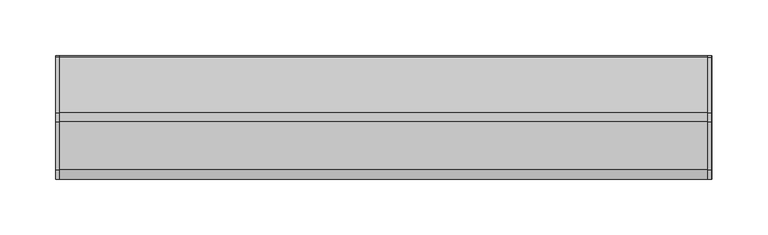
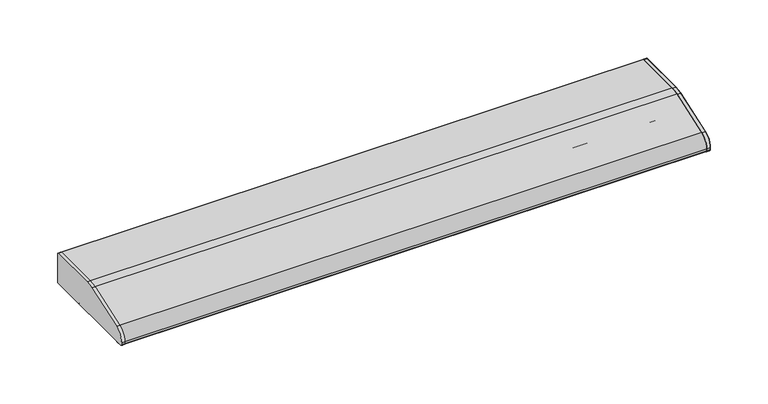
"""IFC4 building model written with IfcOpenShell, lengths in millimetres: light fixture geometry, HermanMiller_SupplementalProducts_G6136_UtilityTaskLight : AO Etho Canvas 30W."""

from ifc_helpers import new_model, si_unit, point, frame, frame_2d, origin, place, context, project, spatial, polyline, circle_curve, trimmed, segment, composite_curve, outline, extrude, source, transform, mapped, element, save


def light_fixture_68823ae9(model_context):
    return source(origin(), model_context, "Body", "SweptSolid", [
        extrude(outline(composite_curve([segment(polyline([(53.975, 1282.7), (-53.975, 1282.7)]), True, "CONTINUOUS"), segment(trimmed(circle_curve(frame_2d((-53.975, 1284.2875)), 1.5875), [point((-53.975, 1282.7))], [point((-55.5625, 1284.2875))], False, "CARTESIAN"), True, "CONTINUOUS"), segment(polyline([(-55.5625, 1284.2875), (-55.5625, 1286.3285714)]), True, "CONTINUOUS"), segment(trimmed(circle_curve(frame_2d((-42.8625, 1286.3285714)), 12.7), [point((-55.5625, 1286.3285714))], [point((-46.9814189, 1298.3420849))], False, "CARTESIAN"), True, "CONTINUOUS"), segment(polyline([(-46.9814189, 1298.3420849), (-4.0045045, 1313.077027)]), True, "CONTINUOUS"), segment(trimmed(circle_curve(frame_2d((4.2333333, 1289.05)), 25.4), [point((-4.0045045, 1313.077027))], [point((4.2333333, 1314.45))], False, "CARTESIAN"), True, "CONTINUOUS"), segment(polyline([(4.2333333, 1314.45), (53.975, 1314.45)]), True, "CONTINUOUS"), segment(trimmed(circle_curve(frame_2d((53.975, 1312.8625)), 1.5875), [point((53.975, 1314.45))], [point((55.5625, 1312.8625))], False, "CARTESIAN"), True, "CONTINUOUS"), segment(polyline([(55.5625, 1312.8625), (55.5625, 1284.2875)]), True, "CONTINUOUS"), segment(trimmed(circle_curve(frame_2d((53.975, 1284.2875)), 1.5875), [point((55.5625, 1284.2875))], [point((53.975, 1282.7))], False, "CARTESIAN"), True, "CONTINUOUS")], self_intersect=False)), frame((291.846, 0.0, 0.0), z_axis=(1.0, 0.0, 0.0), x_axis=(0.0, 1.0, 0.0)), (0.0, 0.0, 1.0), 3.175),
        extrude(outline(composite_curve([segment(trimmed(circle_curve(frame_2d((53.975, 1312.8625)), 1.5875), [point((53.975, 1314.45))], [point((55.5625, 1312.8625))], False, "CARTESIAN"), True, "CONTINUOUS"), segment(polyline([(55.5625, 1312.8625), (55.5625, 1284.2875)]), True, "CONTINUOUS"), segment(trimmed(circle_curve(frame_2d((53.975, 1284.2875)), 1.5875), [point((55.5625, 1284.2875))], [point((53.975, 1282.7))], False, "CARTESIAN"), True, "CONTINUOUS"), segment(polyline([(53.975, 1282.7), (-53.975, 1282.7)]), True, "CONTINUOUS"), segment(trimmed(circle_curve(frame_2d((-53.975, 1284.2875)), 1.5875), [point((-53.975, 1282.7))], [point((-55.5625, 1284.2875))], False, "CARTESIAN"), True, "CONTINUOUS"), segment(polyline([(-55.5625, 1284.2875), (-55.5625, 1286.3285714)]), True, "CONTINUOUS"), segment(trimmed(circle_curve(frame_2d((-42.8625, 1286.3285714)), 12.7), [point((-55.5625, 1286.3285714))], [point((-46.9814189, 1298.3420849))], False, "CARTESIAN"), True, "CONTINUOUS"), segment(polyline([(-46.9814189, 1298.3420849), (-4.0045045, 1313.077027)]), True, "CONTINUOUS"), segment(trimmed(circle_curve(frame_2d((4.2333333, 1289.05)), 25.4), [point((-4.0045045, 1313.077027))], [point((4.2333333, 1314.45))], False, "CARTESIAN"), True, "CONTINUOUS"), segment(polyline([(4.2333333, 1314.45), (53.975, 1314.45)]), True, "CONTINUOUS")], self_intersect=False)), frame((-295.021, 0.0, 0.0), z_axis=(1.0, 0.0, 0.0), x_axis=(0.0, 1.0, 0.0)), (0.0, 0.0, 1.0), 3.175),
        extrude(outline(composite_curve([segment(polyline([(55.5625, 1312.8625), (55.5625, 1284.2875)]), True, "CONTINUOUS"), segment(trimmed(circle_curve(frame_2d((53.975, 1284.2875)), 1.5875), [point((55.5625, 1284.2875))], [point((53.975, 1282.7))], False, "CARTESIAN"), True, "CONTINUOUS"), segment(polyline([(53.975, 1282.7), (19.05, 1282.7)]), True, "CONTINUOUS"), segment(trimmed(circle_curve(frame_2d((19.05, 1284.2875)), 1.5875), [point((19.05, 1282.7))], [point((17.4625, 1284.2875))], False, "CARTESIAN"), True, "CONTINUOUS"), segment(polyline([(17.4625, 1284.2875), (17.4625, 1312.8625), (4.4979167, 1312.8625)]), True, "CONTINUOUS"), segment(trimmed(circle_curve(frame_2d((4.4979167, 1287.4625)), 25.4), [point((4.4979167, 1312.8625))], [point((-3.7399212, 1311.489527))], True, "CARTESIAN"), True, "CONTINUOUS"), segment(polyline([(-3.7399212, 1311.489527), (-37.4564189, 1299.9295849)]), True, "CONTINUOUS"), segment(trimmed(circle_curve(frame_2d((-33.3375, 1287.9160714)), 12.7), [point((-37.4564189, 1299.9295849))], [point((-46.0375, 1287.9160714))], True, "CARTESIAN"), True, "CONTINUOUS"), segment(polyline([(-46.0375, 1287.9160714), (-46.0375, 1284.2875)]), True, "CONTINUOUS"), segment(trimmed(circle_curve(frame_2d((-47.625, 1284.2875)), 1.5875), [point((-46.0375, 1284.2875))], [point((-47.625, 1282.7))], False, "CARTESIAN"), True, "CONTINUOUS"), segment(polyline([(-47.625, 1282.7), (-53.975, 1282.7)]), True, "CONTINUOUS"), segment(trimmed(circle_curve(frame_2d((-53.975, 1284.2875)), 1.5875), [point((-53.975, 1282.7))], [point((-55.5625, 1284.2875))], False, "CARTESIAN"), True, "CONTINUOUS"), segment(polyline([(-55.5625, 1284.2875), (-55.5625, 1286.3285714)]), True, "CONTINUOUS"), segment(trimmed(circle_curve(frame_2d((-42.8625, 1286.3285714)), 12.7), [point((-55.5625, 1286.3285714))], [point((-46.9814189, 1298.3420849))], False, "CARTESIAN"), True, "CONTINUOUS"), segment(polyline([(-46.9814189, 1298.3420849), (-4.0045045, 1313.077027)]), True, "CONTINUOUS"), segment(trimmed(circle_curve(frame_2d((4.2333333, 1289.05)), 25.4), [point((-4.0045045, 1313.077027))], [point((4.2333333, 1314.45))], False, "CARTESIAN"), True, "CONTINUOUS"), segment(polyline([(4.2333333, 1314.45), (53.975, 1314.45)]), True, "CONTINUOUS"), segment(trimmed(circle_curve(frame_2d((53.975, 1312.8625)), 1.5875), [point((53.975, 1314.45))], [point((55.5625, 1312.8625))], False, "CARTESIAN"), True, "CONTINUOUS")], self_intersect=False)), frame((-295.021, 0.0, 0.0), z_axis=(1.0, 0.0, 0.0), x_axis=(0.0, 1.0, 0.0)), (0.0, 0.0, 1.0), 590.5080011),
        extrude(outline(composite_curve([segment(trimmed(circle_curve(frame_2d((1.5875, 1300.1625)), 9.525), [point((-7.9375, 1300.1625))], [point((11.1125, 1300.1625))], False, "CARTESIAN"), True, "CONTINUOUS"), segment(trimmed(circle_curve(frame_2d((1.5875, 1300.1625)), 9.525), [point((11.1125, 1300.1625))], [point((-7.9375, 1300.1625))], False, "CARTESIAN"), True, "CONTINUOUS")], self_intersect=False)), frame((269.621, 0.0, 0.0), z_axis=(1.0, 0.0, 0.0), x_axis=(0.0, 1.0, 0.0)), (0.0, 0.0, 1.0), 12.7),
        extrude(outline(composite_curve([segment(trimmed(circle_curve(frame_2d((1.5875, 1300.1625)), 9.525), [point((-7.9375, 1300.1625))], [point((11.1125, 1300.1625))], False, "CARTESIAN"), True, "CONTINUOUS"), segment(trimmed(circle_curve(frame_2d((1.5875, 1300.1625)), 9.525), [point((11.1125, 1300.1625))], [point((-7.9375, 1300.1625))], False, "CARTESIAN"), True, "CONTINUOUS")], self_intersect=False)), frame((-282.321, 0.0, 0.0), z_axis=(1.0, 0.0, 0.0), x_axis=(0.0, 1.0, 0.0)), (0.0, 0.0, 1.0), 12.7),
        extrude(outline(composite_curve([segment(trimmed(circle_curve(frame_2d((1.5875, 1300.1625)), 9.525), [point((-7.9375, 1300.1625))], [point((11.1125, 1300.1625))], False, "CARTESIAN"), True, "CONTINUOUS"), segment(trimmed(circle_curve(frame_2d((1.5875, 1300.1625)), 9.525), [point((11.1125, 1300.1625))], [point((-7.9375, 1300.1625))], False, "CARTESIAN"), True, "CONTINUOUS")], self_intersect=False)), frame((-269.621, 0.0, 0.0), z_axis=(1.0, 0.0, 0.0), x_axis=(0.0, 1.0, 0.0)), (0.0, 0.0, 1.0), 539.242),
        extrude(outline(composite_curve([segment(polyline([(17.4625, 1285.875), (-46.0375, 1285.875), (-46.0375, 1287.9160714)]), True, "CONTINUOUS"), segment(trimmed(circle_curve(frame_2d((-33.3375, 1287.9160714)), 12.7), [point((-46.0375, 1287.9160714))], [point((-37.4564189, 1299.9295849))], False, "CARTESIAN"), True, "CONTINUOUS"), segment(polyline([(-37.4564189, 1299.9295849), (-3.7399212, 1311.489527)]), True, "CONTINUOUS"), segment(trimmed(circle_curve(frame_2d((4.4979167, 1287.4625)), 25.4), [point((-3.7399212, 1311.489527))], [point((4.4979167, 1312.8625))], False, "CARTESIAN"), True, "CONTINUOUS"), segment(polyline([(4.4979167, 1312.8625), (17.4625, 1312.8625), (17.4625, 1285.875)]), True, "CONTINUOUS")], self_intersect=False)), frame((282.321, 0.0, 0.0), z_axis=(1.0, 0.0, 0.0), x_axis=(0.0, 1.0, 0.0)), (0.0, 0.0, 1.0), 9.525),
        extrude(outline(composite_curve([segment(polyline([(17.4625, 1285.875), (-46.0375, 1285.875), (-46.0375, 1287.9160714)]), True, "CONTINUOUS"), segment(trimmed(circle_curve(frame_2d((-33.3375, 1287.9160714)), 12.7), [point((-46.0375, 1287.9160714))], [point((-37.4564189, 1299.9295849))], False, "CARTESIAN"), True, "CONTINUOUS"), segment(polyline([(-37.4564189, 1299.9295849), (-3.7399212, 1311.489527)]), True, "CONTINUOUS"), segment(trimmed(circle_curve(frame_2d((4.4979167, 1287.4625)), 25.4), [point((-3.7399212, 1311.489527))], [point((4.4979167, 1312.8625))], False, "CARTESIAN"), True, "CONTINUOUS"), segment(polyline([(4.4979167, 1312.8625), (17.4625, 1312.8625), (17.4625, 1285.875)]), True, "CONTINUOUS")], self_intersect=False)), frame((-291.846, 0.0, 0.0), z_axis=(1.0, 0.0, 0.0), x_axis=(0.0, 1.0, 0.0)), (0.0, 0.0, 1.0), 9.525),
    ])


if __name__ == "__main__":
    model = new_model("IFC4")
    model_context = context("Model", 3, world=origin())
    ifc_project = project(units=[si_unit("LENGTHUNIT", "METRE", prefix="MILLI")], contexts=[model_context])
    site = spatial("IfcSite", under=ifc_project)
    building = spatial("IfcBuilding", under=site)
    placement = place(None, origin())
    light_fixture_shape = light_fixture_68823ae9(model_context)
    element("IfcLightFixture", 1, ObjectType="HermanMiller_SupplementalProducts_G6136_UtilityTaskLight : AO Etho Canvas 30W", at=placement, inside=building, context=model_context, shape_type="MappedRepresentation", body=[
        mapped(light_fixture_shape, transform((0.0, 0.0, 0.0), x_axis=(1.0, 0.0, 0.0), y_axis=(0.0, 1.0, 0.0), z_axis=(0.0, 0.0, 1.0))),
    ])
    save(model, "model.ifc")
